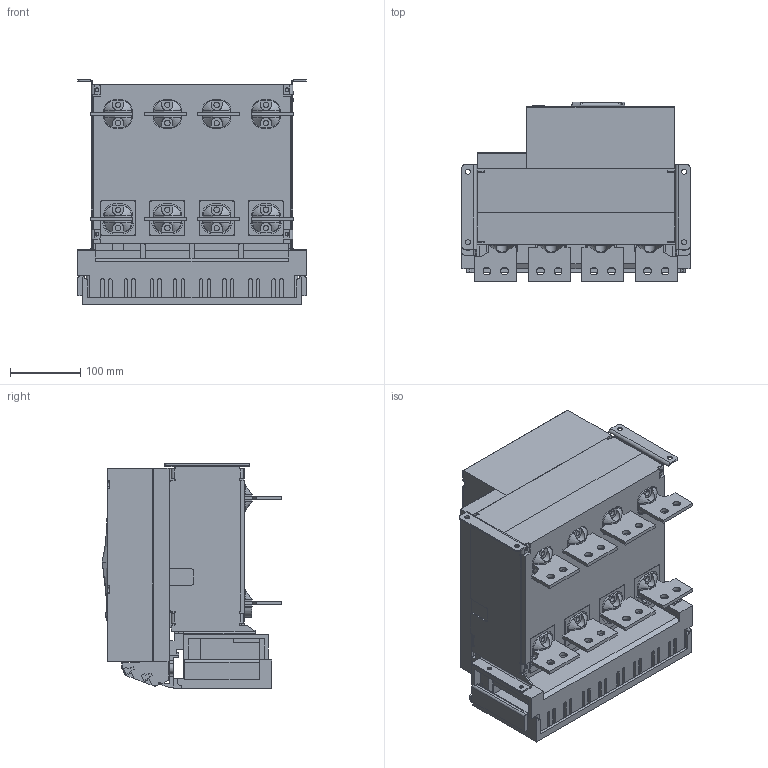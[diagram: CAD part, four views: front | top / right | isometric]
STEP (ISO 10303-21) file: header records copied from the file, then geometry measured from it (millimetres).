
FILE_DESCRIPTION((''),'2;1');
FILE_NAME('NA8G-1600-630-F-4P-H_ASM','2019-06-03T12:55:48',('lcc'),(''),'CREO PARAMETRIC BY PTC INC, 2018020','CREO PARAMETRIC BY PTC INC, 2018020','');
FILE_SCHEMA(('CONFIG_CONTROL_DESIGN','SHAPE_APPEARANCE_LAYERS_GROUPS'));
Products named in the file (20): 1600-JIZUO-4P; 1600-DIBAN-4P; 8-050-245; 8-050-246; 8-300-162-2; 8-005-238; 8-300-163; 8-015-020; 8ZTD-064-138; 8ZTD-024-689; 8ZTD-860-511; 1600-DUANZI-CTS_ASM; 8-253-348; 8-253-349; 5-235-147; 8-253-309; 8-211-087; 8ZTD-580-189; 8ZTD-580-190; NA8G-1600-630-F-4P-H_ASM
Assembly tree (41 placements, depth 3):
  NA8G-1600-630-F-4P-H_ASM
    1600-JIZUO-4P
    1600-DIBAN-4P
    8-050-245
    8-050-246
    8-300-162-2
    8-005-238
    8-300-163
    8-015-020
    1600-DUANZI-CTS_ASM
      8ZTD-064-138
      8ZTD-024-689  x14
      8ZTD-860-511
    8-253-348
    8-253-349
    5-235-147
    8-253-309
    8-211-087  x4
    8ZTD-580-189  x4
    8ZTD-580-190  x4
Bounding box: 324 x 255 x 318.5 mm (x, y, z)
Volume: 8833675.8 mm3; surface area: 1643940 mm2
Topology: 40 solids, 59 shells, 5356 faces, 14882 edges, 9787 vertices
Faces by surface type: plane 4299, cylinder 986, cone 32, torus 18, bspline 10, sphere 10, extrusion 1
Entity records: 130824 total; most frequent: CARTESIAN_POINT 18755, ORIENTED_EDGE 17260, DIRECTION 16423, PRESENTATION_STYLE_ASSIGNMENT 9209, STYLED_ITEM 9194, CURVE_STYLE 8633, EDGE_CURVE 8633, VECTOR 7039
